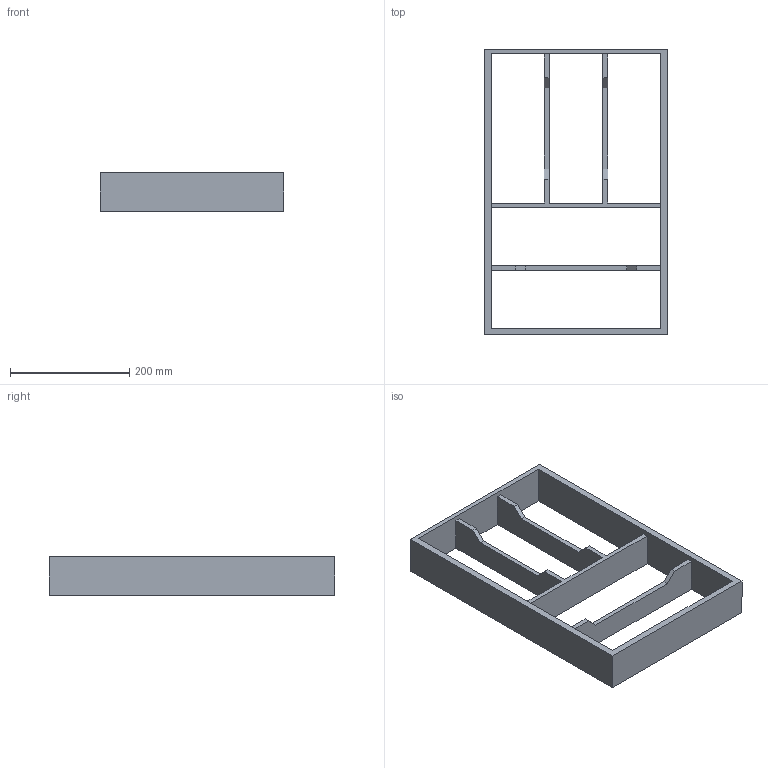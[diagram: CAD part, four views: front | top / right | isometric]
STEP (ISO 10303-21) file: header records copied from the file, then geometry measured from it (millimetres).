
FILE_DESCRIPTION (( 'STEP AP214' ), '1' );
FILE_NAME ('Vario Besteck fix NL500_B400_16mm_Buche.step', '2010-11-08T07:33:17', ( 'grass' ), ( '' ), 'SwSTEP 2.0', 'SolidWorks 2010', '' );
FILE_SCHEMA (( 'AUTOMOTIVE_DESIGN' ));
Length unit declared in the file: millimetre
Products named in the file (1): Vario Besteck fix NL500_B400_16mm_Buche
Bounding box: 308 x 479 x 65 mm (x, y, z)
Volume: 1517940 mm3; surface area: 351582 mm2
Topology: 1 solids, 1 shells, 34 faces, 108 edges, 72 vertices
Faces by surface type: plane 34
Entity records: 1226 total; most frequent: ORIENTED_EDGE 216, CARTESIAN_POINT 215, DIRECTION 178, VECTOR 108, LINE 108, EDGE_CURVE 108, VERTEX_POINT 72, EDGE_LOOP 40
